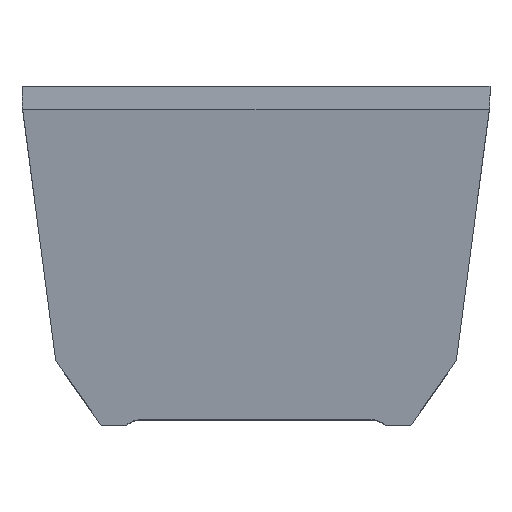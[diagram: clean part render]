
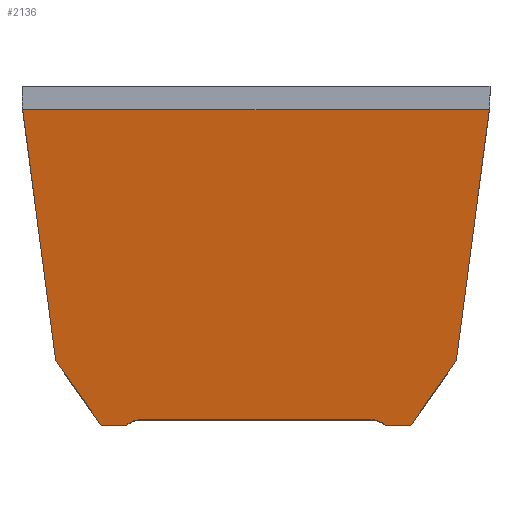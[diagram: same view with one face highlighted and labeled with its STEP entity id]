
A CAD part, top view. The second image highlights one B-rep face of the part: STEP entity #2136.
In plain terms, the highlighted planar face has unit normal (0, -0.147, 0.989).
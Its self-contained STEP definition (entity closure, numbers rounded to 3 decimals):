
#65 = VECTOR ( 'NONE', #3269, 1000. ) ;
#86 = VECTOR ( 'NONE', #3271, 1000. ) ;
#97 = VECTOR ( 'NONE', #3106, 1000. ) ;
#98 = LINE ( 'NONE', #3107, #97 ) ;
#99 = VECTOR ( 'NONE', #3108, 1000. ) ;
#100 = LINE ( 'NONE', #3109, #99 ) ;
#113 = LINE ( 'NONE', #3274, #86 ) ;
#119 = VECTOR ( 'NONE', #3126, 1000. ) ;
#127 = LINE ( 'NONE', #3272, #65 ) ;
#133 = LINE ( 'NONE', #3133, #119 ) ;
#158 = VECTOR ( 'NONE', #3166, 1000. ) ;
#159 = LINE ( 'NONE', #3167, #158 ) ;
#160 = VECTOR ( 'NONE', #3168, 1000. ) ;
#161 = LINE ( 'NONE', #3169, #160 ) ;
#238 = VECTOR ( 'NONE', #3254, 1000. ) ;
#240 = LINE ( 'NONE', #3267, #238 ) ;
#743 = EDGE_LOOP ( 'NONE', ( #761, #760, #759, #758, #757, #756, #755, #754, #753, #752, #751, #750 ) ) ;
#750 = ORIENTED_EDGE ( 'NONE', *, *, #1248, .F. ) ;
#751 = ORIENTED_EDGE ( 'NONE', *, *, #1223, .F. ) ;
#752 = ORIENTED_EDGE ( 'NONE', *, *, #1106, .F. ) ;
#753 = ORIENTED_EDGE ( 'NONE', *, *, #1054, .F. ) ;
#754 = ORIENTED_EDGE ( 'NONE', *, *, #1173, .F. ) ;
#755 = ORIENTED_EDGE ( 'NONE', *, *, #1079, .T. ) ;
#756 = ORIENTED_EDGE ( 'NONE', *, *, #1129, .F. ) ;
#757 = ORIENTED_EDGE ( 'NONE', *, *, #1247, .F. ) ;
#758 = ORIENTED_EDGE ( 'NONE', *, *, #1031, .F. ) ;
#759 = ORIENTED_EDGE ( 'NONE', *, *, #1053, .T. ) ;
#760 = ORIENTED_EDGE ( 'NONE', *, *, #1246, .F. ) ;
#761 = ORIENTED_EDGE ( 'NONE', *, *, #1172, .F. ) ;
#1031 = EDGE_CURVE ( 'NONE', #3037, #2985, #1730, .T. ) ;
#1041 = AXIS2_PLACEMENT_3D ( 'NONE', #2691, #2684, #2683 ) ;
#1053 = EDGE_CURVE ( 'NONE', #3017, #2985, #113, .T. ) ;
#1054 = EDGE_CURVE ( 'NONE', #3027, #2992, #127, .T. ) ;
#1079 = EDGE_CURVE ( 'NONE', #3059, #3074, #240, .T. ) ;
#1106 = EDGE_CURVE ( 'NONE', #2982, #3027, #1737, .T. ) ;
#1129 = EDGE_CURVE ( 'NONE', #3059, #3053, #1736, .T. ) ;
#1172 = EDGE_CURVE ( 'NONE', #2981, #3021, #161, .T. ) ;
#1173 = EDGE_CURVE ( 'NONE', #2992, #3074, #159, .T. ) ;
#1223 = EDGE_CURVE ( 'NONE', #3050, #2982, #133, .T. ) ;
#1246 = EDGE_CURVE ( 'NONE', #3017, #2981, #100, .T. ) ;
#1247 = EDGE_CURVE ( 'NONE', #3053, #3037, #98, .T. ) ;
#1248 = EDGE_CURVE ( 'NONE', #3021, #3050, #1735, .T. ) ;
#1730 =( BOUNDED_CURVE ( )  B_SPLINE_CURVE ( 3, ( #3290, #3282, #3281, #3280 ),
 .UNSPECIFIED., .F., .F. ) 
 B_SPLINE_CURVE_WITH_KNOTS ( ( 4, 4 ),
 ( 0., 0.673 ),
 .UNSPECIFIED. ) 
 CURVE ( )  GEOMETRIC_REPRESENTATION_ITEM ( )  RATIONAL_B_SPLINE_CURVE ( ( 1., 0.963, 0.963, 1. ) ) 
 REPRESENTATION_ITEM ( '' )  );
#1735 =( BOUNDED_CURVE ( )  B_SPLINE_CURVE ( 3, ( #3113, #3103, #3102, #3101 ),
 .UNSPECIFIED., .F., .T. ) 
 B_SPLINE_CURVE_WITH_KNOTS ( ( 4, 4 ),
 ( 4.581, 4.616 ),
 .UNSPECIFIED. ) 
 CURVE ( )  GEOMETRIC_REPRESENTATION_ITEM ( )  RATIONAL_B_SPLINE_CURVE ( ( 1., 1., 1., 1. ) ) 
 REPRESENTATION_ITEM ( '' )  );
#1736 =( BOUNDED_CURVE ( )  B_SPLINE_CURVE ( 3, ( #3213, #3206, #3205, #3204 ),
 .UNSPECIFIED., .F., .T. ) 
 B_SPLINE_CURVE_WITH_KNOTS ( ( 4, 4 ),
 ( 5.61, 6.283 ),
 .UNSPECIFIED. ) 
 CURVE ( )  GEOMETRIC_REPRESENTATION_ITEM ( )  RATIONAL_B_SPLINE_CURVE ( ( 1., 0.963, 0.963, 1. ) ) 
 REPRESENTATION_ITEM ( '' )  );
#1737 =( BOUNDED_CURVE ( )  B_SPLINE_CURVE ( 3, ( #3235, #3231, #3230, #3229 ),
 .UNSPECIFIED., .F., .T. ) 
 B_SPLINE_CURVE_WITH_KNOTS ( ( 4, 4 ),
 ( 1.667, 1.702 ),
 .UNSPECIFIED. ) 
 CURVE ( )  GEOMETRIC_REPRESENTATION_ITEM ( )  RATIONAL_B_SPLINE_CURVE ( ( 1., 1., 1., 1. ) ) 
 REPRESENTATION_ITEM ( '' )  );
#2037 = FACE_OUTER_BOUND ( 'NONE', #743, .T. ) ;
#2136 = ADVANCED_FACE ( 'NONE', ( #2037 ), #2695, .F. ) ;
#2308 = CARTESIAN_POINT ( 'NONE',  ( 29.972, -4.3, 26.456 ) ) ;
#2312 = CARTESIAN_POINT ( 'NONE',  ( 25.117, -4.3, 26.456 ) ) ;
#2314 = CARTESIAN_POINT ( 'NONE',  ( 22., -3.21, 26.618 ) ) ;
#2316 = CARTESIAN_POINT ( 'NONE',  ( -45.11, 56.725, 35.5 ) ) ;
#2319 = CARTESIAN_POINT ( 'NONE',  ( -22., -3.21, 26.618 ) ) ;
#2321 = CARTESIAN_POINT ( 'NONE',  ( 44.993, 55.7, 35.348 ) ) ;
#2325 = CARTESIAN_POINT ( 'NONE',  ( -44.993, 55.7, 35.348 ) ) ;
#2326 = CARTESIAN_POINT ( 'NONE',  ( -29.972, -4.3, 26.456 ) ) ;
#2334 = CARTESIAN_POINT ( 'NONE',  ( 38.738, 8.23, 28.313 ) ) ;
#2338 = CARTESIAN_POINT ( 'NONE',  ( -25.117, -4.3, 26.456 ) ) ;
#2339 = CARTESIAN_POINT ( 'NONE',  ( 45.11, 56.725, 35.5 ) ) ;
#2340 = CARTESIAN_POINT ( 'NONE',  ( -38.738, 8.23, 28.313 ) ) ;
#2683 = DIRECTION ( 'NONE',  ( 0., -0.989, -0.147 ) ) ;
#2684 = DIRECTION ( 'NONE',  ( 0., 0.147, -0.989 ) ) ;
#2691 = CARTESIAN_POINT ( 'NONE',  ( -189.29, 56.725, 35.5 ) ) ;
#2695 = PLANE ( 'NONE',  #1041 ) ;
#2981 = VERTEX_POINT ( 'NONE', #2340 ) ;
#2982 = VERTEX_POINT ( 'NONE', #2339 ) ;
#2985 = VERTEX_POINT ( 'NONE', #2338 ) ;
#2992 = VERTEX_POINT ( 'NONE', #2334 ) ;
#3017 = VERTEX_POINT ( 'NONE', #2326 ) ;
#3021 = VERTEX_POINT ( 'NONE', #2325 ) ;
#3027 = VERTEX_POINT ( 'NONE', #2321 ) ;
#3037 = VERTEX_POINT ( 'NONE', #2319 ) ;
#3050 = VERTEX_POINT ( 'NONE', #2316 ) ;
#3053 = VERTEX_POINT ( 'NONE', #2314 ) ;
#3059 = VERTEX_POINT ( 'NONE', #2312 ) ;
#3074 = VERTEX_POINT ( 'NONE', #2308 ) ;
#3101 = CARTESIAN_POINT ( 'NONE',  ( -45.11, 56.725, 35.5 ) ) ;
#3102 = CARTESIAN_POINT ( 'NONE',  ( -45.077, 56.383, 35.449 ) ) ;
#3103 = CARTESIAN_POINT ( 'NONE',  ( -45.038, 56.041, 35.399 ) ) ;
#3106 = DIRECTION ( 'NONE',  ( -1., 0., 0. ) ) ;
#3107 = CARTESIAN_POINT ( 'NONE',  ( -22., -3.21, 26.618 ) ) ;
#3108 = DIRECTION ( 'NONE',  ( -0.569, 0.813, 0.121 ) ) ;
#3109 = CARTESIAN_POINT ( 'NONE',  ( -38.099, 7.317, 28.178 ) ) ;
#3113 = CARTESIAN_POINT ( 'NONE',  ( -44.993, 55.7, 35.348 ) ) ;
#3126 = DIRECTION ( 'NONE',  ( 1., 0., 0. ) ) ;
#3133 = CARTESIAN_POINT ( 'NONE',  ( -15.25, 56.725, 35.5 ) ) ;
#3166 = DIRECTION ( 'NONE',  ( -0.569, -0.813, -0.121 ) ) ;
#3167 = CARTESIAN_POINT ( 'NONE',  ( 38.099, 7.317, 28.178 ) ) ;
#3168 = DIRECTION ( 'NONE',  ( -0.129, 0.981, 0.145 ) ) ;
#3169 = CARTESIAN_POINT ( 'NONE',  ( -44.686, 53.369, 35.003 ) ) ;
#3204 = CARTESIAN_POINT ( 'NONE',  ( 22., -3.21, 26.618 ) ) ;
#3205 = CARTESIAN_POINT ( 'NONE',  ( 23.144, -3.21, 26.618 ) ) ;
#3206 = CARTESIAN_POINT ( 'NONE',  ( 24.223, -3.587, 26.562 ) ) ;
#3213 = CARTESIAN_POINT ( 'NONE',  ( 25.117, -4.3, 26.456 ) ) ;
#3229 = CARTESIAN_POINT ( 'NONE',  ( 44.993, 55.7, 35.348 ) ) ;
#3230 = CARTESIAN_POINT ( 'NONE',  ( 45.038, 56.041, 35.399 ) ) ;
#3231 = CARTESIAN_POINT ( 'NONE',  ( 45.077, 56.383, 35.449 ) ) ;
#3235 = CARTESIAN_POINT ( 'NONE',  ( 45.11, 56.725, 35.5 ) ) ;
#3254 = DIRECTION ( 'NONE',  ( 1., 0., 0. ) ) ;
#3267 = CARTESIAN_POINT ( 'NONE',  ( -189.29, -4.3, 26.456 ) ) ;
#3269 = DIRECTION ( 'NONE',  ( -0.129, -0.981, -0.145 ) ) ;
#3271 = DIRECTION ( 'NONE',  ( 1., 0., 0. ) ) ;
#3272 = CARTESIAN_POINT ( 'NONE',  ( 44.686, 53.369, 35.003 ) ) ;
#3274 = CARTESIAN_POINT ( 'NONE',  ( -189.29, -4.3, 26.456 ) ) ;
#3280 = CARTESIAN_POINT ( 'NONE',  ( -25.117, -4.3, 26.456 ) ) ;
#3281 = CARTESIAN_POINT ( 'NONE',  ( -24.223, -3.587, 26.562 ) ) ;
#3282 = CARTESIAN_POINT ( 'NONE',  ( -23.144, -3.21, 26.618 ) ) ;
#3290 = CARTESIAN_POINT ( 'NONE',  ( -22., -3.21, 26.618 ) ) ;
